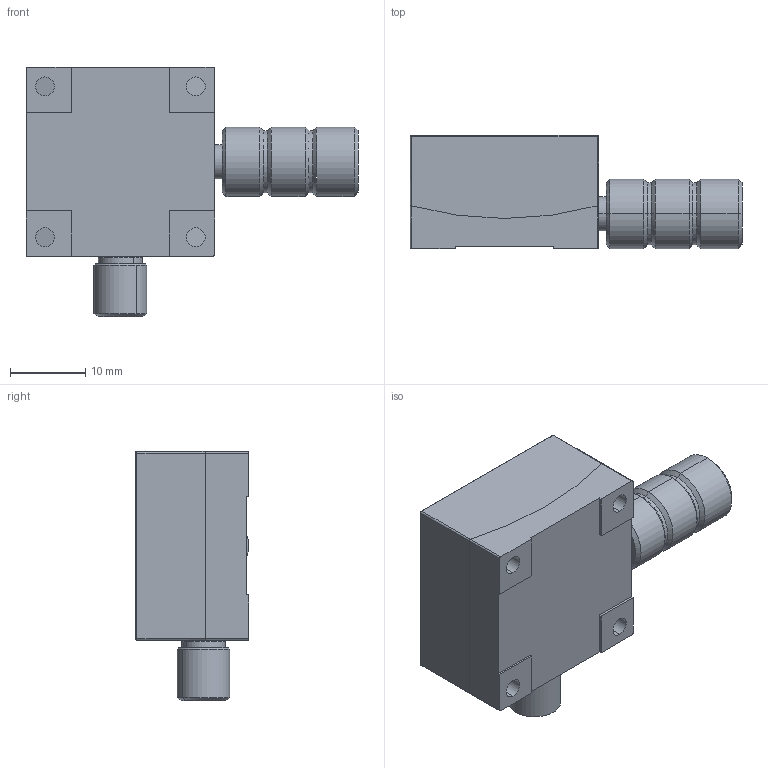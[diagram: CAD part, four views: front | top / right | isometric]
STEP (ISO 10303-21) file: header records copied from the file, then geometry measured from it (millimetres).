
FILE_DESCRIPTION (( 'STEP AP203' ), '1' );
FILE_NAME ('PT-SD2510.STEP', '2025-12-05T02:30:03', ( '' ), ( '' ), 'SwSTEP 2.0', 'SolidWorks 2025', '' );
FILE_SCHEMA (( 'CONFIG_CONTROL_DESIGN' ));
Length unit declared in the file: millimetre
Products named in the file (5): PT-SD2510; 2023-372-1.STEP; GFG2520-C35H15.STEP; ________.STEP; 2023-372-2.STEP
Assembly tree (4 placements, depth 3):
  PT-SD2510
    GFG2520-C35H15.STEP
      2023-372-2.STEP
      2023-372-1.STEP
      ________.STEP
Bounding box: 44 x 15 x 33 mm (x, y, z)
Volume: 10306.7 mm3; surface area: 5512.6 mm2
Topology: 3 solids, 3 shells, 170 faces, 390 edges, 219 vertices
Faces by surface type: cylinder 72, cone 60, plane 34, sphere 4
Entity records: 5335 total; most frequent: CARTESIAN_POINT 1025, DIRECTION 864, ORIENTED_EDGE 728, EDGE_CURVE 364, AXIS2_PLACEMENT_3D 338, VERTEX_POINT 219, EDGE_LOOP 197, LINE 188
